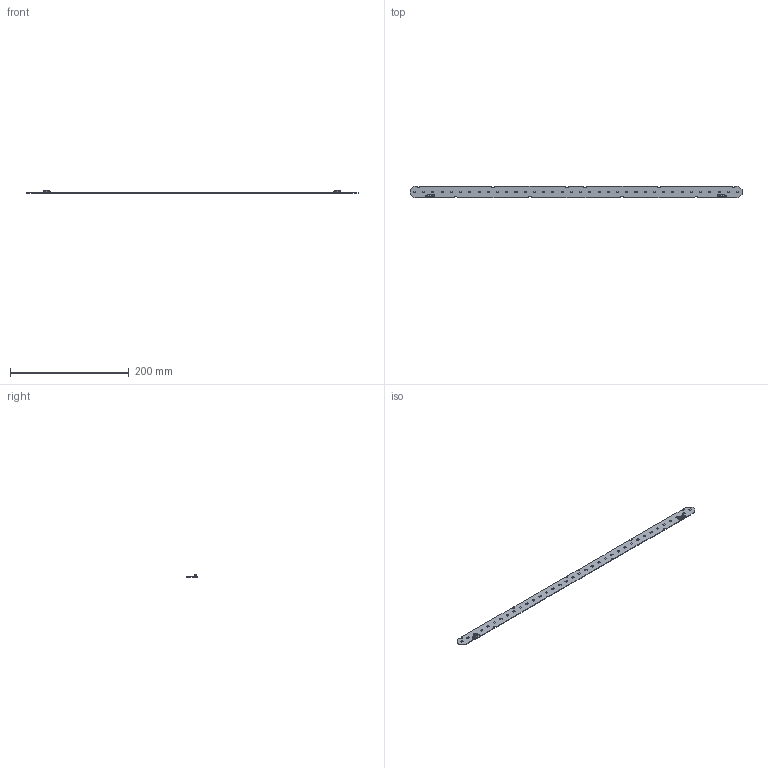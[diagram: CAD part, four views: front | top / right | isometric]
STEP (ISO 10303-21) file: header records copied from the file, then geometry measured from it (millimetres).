
FILE_DESCRIPTION(/* description */ ('Unknown'),/* implementation_level */ '2;1');
FILE_NAME(/* name */ 'LinLED 560x20mm 1100lm 2C 36V sh-000 2025-05-22',/* time_stamp */ '2025-05-22T12:32:02+02:00',/* author */ ('Unknown'),/* organization */ ('Unknown'),/* preprocessor_version */ 'ST-DEVELOPER v18.102',/* originating_system */ 'Solid Edge',/* authorisation */ 'Unknown');
FILE_SCHEMA (('AUTOMOTIVE_DESIGN {1 0 10303 214 3 1 1}'));
Length unit declared in the file: millimetre
Products named in the file (1): LinLED 560x20mm 1100lm 2C 36V sh-000 2025-05-22
Bounding box: 559.6 x 20 x 4.45 mm (x, y, z)
Volume: 11446.3 mm3; surface area: 23886.9 mm2
Topology: 1 solids, 1 shells, 1157 faces, 3040 edges, 1956 vertices
Faces by surface type: plane 824, cylinder 170, torus 68, cone 50, bspline 24, sphere 21
Entity records: 44194 total; most frequent: CARTESIAN_POINT 8359, ORIENTED_EDGE 6008, DIRECTION 5180, EDGE_CURVE 3004, LINE 2308, VECTOR 2308, VERTEX_POINT 1945, AXIS2_PLACEMENT_3D 1436
